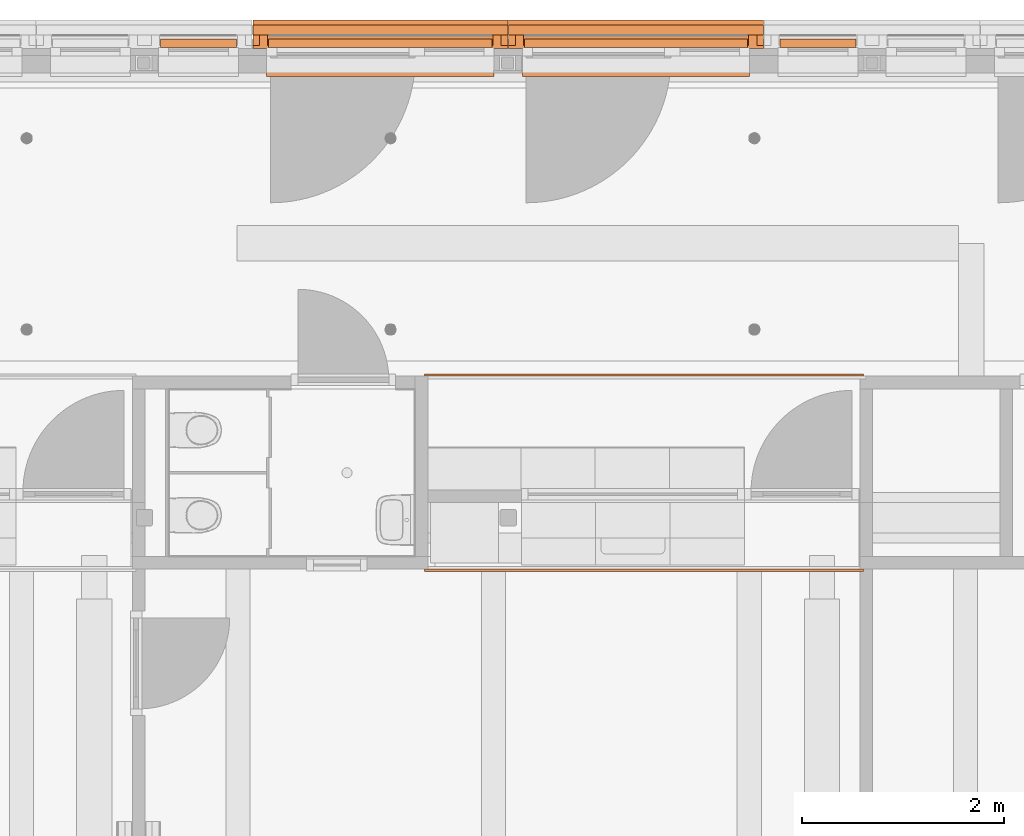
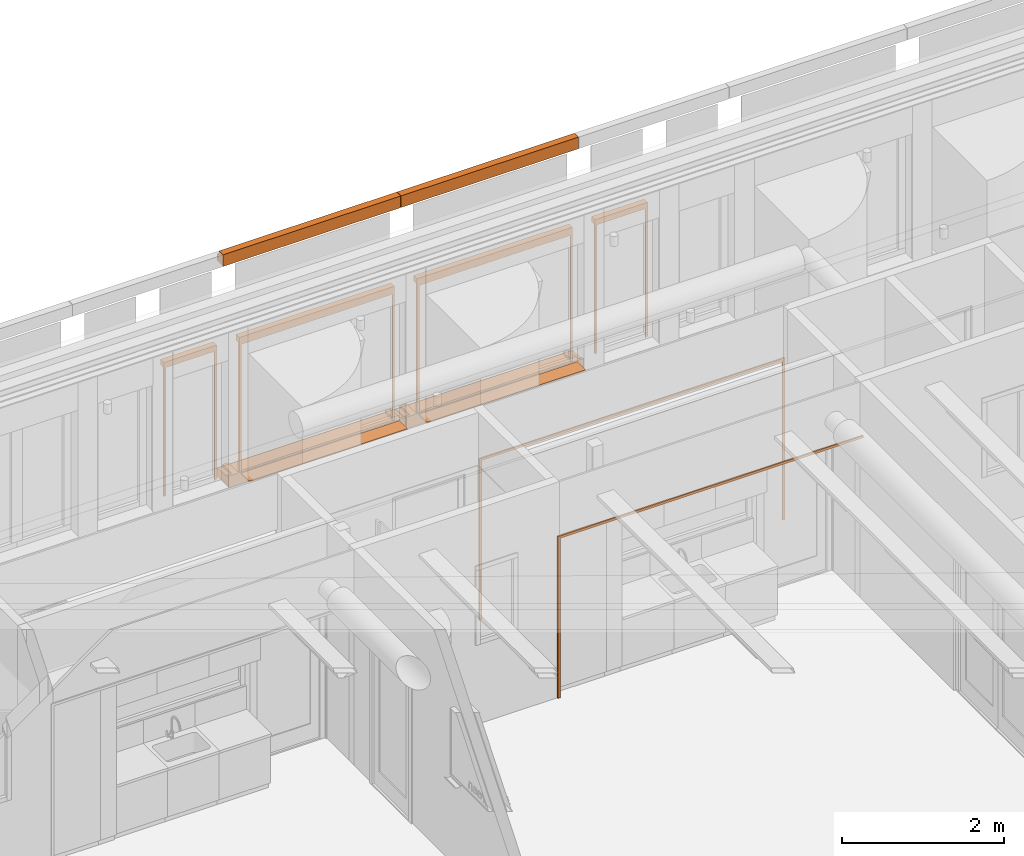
# One storey, part 112 of 128: 12 proxies.
"""IFC2X3 building model written with IfcOpenShell, lengths in millimetres."""

import ifcopenshell
import ifcopenshell.guid

model = None  # the IFC model being written
_history = None  # IfcOwnerHistory: only IFC2X3 demands one
_inside = {}  # id of a spatial element -> (the spatial element, [elements in it])
_under = {}  # id of a project, library or spatial element -> (it, [spatial elements below it])
_declared = {}  # id of a project -> (the project, [libraries it declares])
_typed = {}  # id of a type object -> (the type object, [elements of that type])
_made_of = {}  # id of a material, layer set ... -> (it, [elements and type objects made of it])


def new_model(schema):
    """Start an empty IFC model of exactly this schema.

    Asked for "IFC4X3", IfcOpenShell would pick the latest addendum, in which some entities
    have other attributes; the version numbers below select the first issue.
    IFC2X3 requires an IfcOwnerHistory on every rooted entity: one is made here for all.
    """
    global model, _history
    if schema == "IFC4X3":
        model = ifcopenshell.file(schema_version=(4, 3, 0, 0))
    else:
        model = ifcopenshell.file(schema=schema)
    _inside.clear()
    _under.clear()
    _declared.clear()
    _typed.clear()
    _made_of.clear()
    _history = None
    if model.schema == "IFC2X3":
        org = make("IfcOrganization", Name="unknown")
        user = make(
            "IfcPersonAndOrganization",
            ThePerson=make("IfcPerson", FamilyName="unknown"),
            TheOrganization=org,
        )
        app = make(
            "IfcApplication",
            ApplicationDeveloper=org,
            Version="unknown",
            ApplicationFullName="unknown",
            ApplicationIdentifier="unknown",
        )
        _history = make(
            "IfcOwnerHistory",
            OwningUser=user,
            OwningApplication=app,
            ChangeAction="ADDED",
            CreationDate=0,
        )
    return model


def make(cls, **values):
    """One entity of the class cls with the attributes given. An attribute that is None is left unset."""
    return model.create_entity(
        cls, **{name: value for name, value in values.items() if value is not None}
    )


def entity(cls, *values):
    """Any entity or typed value of the class cls, its attributes in the order of the schema. None: left unset."""
    e = model.create_entity(cls)
    for i, value in enumerate(values):
        if value is not None:
            e[i] = value
    return e


def rooted(cls, **values):
    """An entity with a GlobalId (a new one), such as an element, a storey or a relation."""
    return make(cls, GlobalId=ifcopenshell.guid.new(), OwnerHistory=_history, **values)


def si_unit(unit_type, name, prefix=None):
    """IfcSIUnit, for example si_unit("LENGTHUNIT", "METRE", prefix="MILLI")."""
    return make("IfcSIUnit", UnitType=unit_type, Prefix=prefix, Name=name)


def converted_unit(unit_type, name, factor, base, dimensions=None, offset=None):
    """IfcConversionBasedUnit, such as the inch: factor (a typed value) times the base unit."""
    return make(
        "IfcConversionBasedUnit"
        if offset is None
        else "IfcConversionBasedUnitWithOffset",
        ConversionOffset=offset,
        Dimensions=None
        if dimensions is None
        else entity("IfcDimensionalExponents", *dimensions),
        UnitType=unit_type,
        Name=name,
        ConversionFactor=make(
            "IfcMeasureWithUnit", ValueComponent=factor, UnitComponent=base
        ),
    )


def derived_unit(unit_type, elements):
    """IfcDerivedUnit: a product of units, each with its exponent."""
    return make(
        "IfcDerivedUnit",
        Elements=[
            make("IfcDerivedUnitElement", Unit=unit, Exponent=power)
            for unit, power in elements
        ],
        UnitType=unit_type,
    )


def assignment(units):
    """IfcUnitAssignment: the units of a project."""
    return None if units is None else make("IfcUnitAssignment", Units=units)


def point(xyz):
    """IfcCartesianPoint."""
    return None if xyz is None else make("IfcCartesianPoint", Coordinates=xyz)


def direction(xyz):
    """IfcDirection."""
    return None if xyz is None else make("IfcDirection", DirectionRatios=xyz)


def frame(location, z_axis=None, x_axis=None):
    """IfcAxis2Placement3D, a coordinate frame: its origin and axes. An axis left out is left unset."""
    return make(
        "IfcAxis2Placement3D",
        Location=point(location),
        Axis=direction(z_axis),
        RefDirection=direction(x_axis),
    )


def frame_2d(location, x_axis=None):
    """IfcAxis2Placement2D, a coordinate frame in the plane: its origin and x axis."""
    return make(
        "IfcAxis2Placement2D", Location=point(location), RefDirection=direction(x_axis)
    )


def origin():
    """The frame at (0, 0, 0) with its axes left unset."""
    return frame((0.0, 0.0, 0.0))


def origin_2d_with_axis():
    """The frame at (0, 0) in the plane with the x axis (1, 0) written out."""
    return frame_2d((0.0, 0.0), x_axis=(1.0, 0.0))


def place(relative_to, where):
    """IfcLocalPlacement: puts the frame where relative to a parent placement (None: the world)."""
    return make(
        "IfcLocalPlacement", PlacementRelTo=relative_to, RelativePlacement=where
    )


def context(
    kind, dimensions, precision=None, world=None, true_north=None, identifier=None
):
    """IfcGeometricRepresentationContext, for example the 3D "Model" context."""
    return make(
        "IfcGeometricRepresentationContext",
        ContextIdentifier=identifier,
        ContextType=kind,
        CoordinateSpaceDimension=dimensions,
        Precision=precision,
        WorldCoordinateSystem=world,
        TrueNorth=true_north,
    )


def subcontext(parent, identifier, kind, view, scale=None):
    """IfcGeometricRepresentationSubContext, for example "Body" below "Model"."""
    return make(
        "IfcGeometricRepresentationSubContext",
        ContextIdentifier=identifier,
        ContextType=kind,
        ParentContext=parent,
        TargetScale=scale,
        TargetView=view,
    )


def project(units=None, contexts=None):
    """IfcProject with its units and contexts."""
    return rooted(
        "IfcProject",
        Name="project",
        RepresentationContexts=contexts,
        UnitsInContext=assignment(units),
    )


def spatial(cls, under=None, at=None, **own):
    """A site, building, storey or space (cls), placed at a placement, below another one or the project."""
    s = rooted(cls, ObjectPlacement=at, **own)
    if under is not None:
        _under.setdefault(under.id(), (under, []))[1].append(s)
    return s


def polyline(points):
    """IfcPolyline through the points."""
    return make("IfcPolyline", Points=[point(p) for p in points])


def circle_curve(where, radius):
    """IfcCircle in the frame where."""
    return make("IfcCircle", Position=where, Radius=radius)


def parameter(value):
    """IfcParameterValue: where a trimmed curve begins or ends, as a parameter of its basis curve."""
    return model.create_entity("IfcParameterValue", value)


def trimmed(basis, trim1, trim2, sense, master):
    """IfcTrimmedCurve: the piece of a basis curve between two trims."""
    return make(
        "IfcTrimmedCurve",
        BasisCurve=basis,
        Trim1=trim1,
        Trim2=trim2,
        SenseAgreement=sense,
        MasterRepresentation=master,
    )


def segment(curve, same_sense, transition):
    """IfcCompositeCurveSegment."""
    return make(
        "IfcCompositeCurveSegment",
        Transition=transition,
        SameSense=same_sense,
        ParentCurve=curve,
    )


def composite_curve(segments, self_intersect=None):
    """IfcCompositeCurve: segments joined end to end."""
    return make("IfcCompositeCurve", Segments=segments, SelfIntersect=self_intersect)


def profile(cls, at=None, kind="AREA", **sizes):
    """A parametric profile (cls). Its sizes go by their IFC names, for example OverallWidth=200.0."""
    return make(cls, ProfileType=kind, Position=at, **sizes)


def rectangle(**sizes):
    """IfcRectangleProfileDef."""
    return profile("IfcRectangleProfileDef", **sizes)


def outline(outer, holes=None, kind="AREA"):
    """IfcArbitraryClosedProfileDef: a profile drawn as a closed curve; with holes, ...WithVoids."""
    if holes is None:
        return make("IfcArbitraryClosedProfileDef", ProfileType=kind, OuterCurve=outer)
    return make(
        "IfcArbitraryProfileDefWithVoids",
        ProfileType=kind,
        OuterCurve=outer,
        InnerCurves=holes,
    )


def extrude(swept, where, along, depth):
    """IfcExtrudedAreaSolid: the profile swept, set in the frame where, extruded along a direction by depth."""
    return make(
        "IfcExtrudedAreaSolid",
        SweptArea=swept,
        Position=where,
        ExtrudedDirection=direction(along),
        Depth=depth,
    )


def shape(context_of_items, identifier, shape_type, items):
    """IfcShapeRepresentation: the items that make up one representation, for example the "Body"."""
    return make(
        "IfcShapeRepresentation",
        ContextOfItems=context_of_items,
        RepresentationIdentifier=identifier,
        RepresentationType=shape_type,
        Items=items,
    )


def source(mapping_origin, context_of_items, identifier, shape_type, items):
    """IfcRepresentationMap: a shape defined once, which mapped items show again and again."""
    return make(
        "IfcRepresentationMap",
        MappingOrigin=mapping_origin,
        MappedRepresentation=shape(context_of_items, identifier, shape_type, items),
    )


def transform(
    local_origin,
    x_axis=None,
    y_axis=None,
    z_axis=None,
    scale=None,
    scale2=None,
    scale3=None,
    uniform=True,
):
    """IfcCartesianTransformationOperator3D, or its non-uniform kind. x_axis, y_axis, z_axis: its Axis1, 2, 3."""
    if uniform:
        return make(
            "IfcCartesianTransformationOperator3D",
            Axis1=direction(x_axis),
            Axis2=direction(y_axis),
            LocalOrigin=point(local_origin),
            Scale=scale,
            Axis3=direction(z_axis),
        )
    return make(
        "IfcCartesianTransformationOperator3DnonUniform",
        Axis1=direction(x_axis),
        Axis2=direction(y_axis),
        LocalOrigin=point(local_origin),
        Scale=scale,
        Axis3=direction(z_axis),
        Scale2=scale2,
        Scale3=scale3,
    )


def mapped(mapping_source, mapping_target):
    """IfcMappedItem: shows the shape of a source again, moved by a transform."""
    return make(
        "IfcMappedItem", MappingSource=mapping_source, MappingTarget=mapping_target
    )


def material(Name=None, Category=None):
    """IfcMaterial."""
    return make("IfcMaterial", Name=Name, Category=Category)


def material_list(materials):
    """IfcMaterialList."""
    return make("IfcMaterialList", Materials=materials)


def made_of(thing, what):
    """Note that an element or type object is made of a material, layer set ...; save() writes the relation."""
    if what is not None:
        _made_of.setdefault(what.id(), (what, []))[1].append(thing)
    return thing


def type_object(cls, material=None, **own):
    """A type object (cls), such as IfcWallType, which elements share."""
    return made_of(rooted(cls, **own), material)


def type_shapes(of_type, sources):
    """Give a type object the sources (RepresentationMaps) that its elements show as mapped items."""
    of_type.RepresentationMaps = sources


def element(
    cls,
    number,
    at=None,
    inside=None,
    cuts=None,
    type_object=None,
    material=None,
    context=None,
    identifier="Body",
    shape_type=None,
    held_by="IfcProductDefinitionShape",
    body=None,
    shapes=None,
    **own,
):
    """One element of the class cls, such as IfcWall. Its Tag is "e" and its number.

    at: its placement. inside: the storey or other place that contains it. cuts: it is an
    opening in that element (IfcRelVoidsElement). A single representation is given by context,
    identifier, shape_type and body (its items); several are given by shapes. held_by: the class
    of the entity that holds the representations. save() writes the other relations.
    """
    e = rooted(cls, Tag="e%d" % number, ObjectPlacement=at, **own)
    if body is not None:
        shapes = [shape(context, identifier, shape_type, body)]
    if shapes is not None:
        e.Representation = make(held_by, Representations=shapes)
    if inside is not None:
        _inside.setdefault(inside.id(), (inside, []))[1].append(e)
    if cuts is not None:
        rooted(
            "IfcRelVoidsElement", RelatingBuildingElement=cuts, RelatedOpeningElement=e
        )
    if type_object is not None:
        _typed.setdefault(type_object.id(), (type_object, []))[1].append(e)
    return made_of(e, material)


def aggregate(whole, parts):
    """IfcRelAggregates: a whole, such as a stair, and the parts it consists of."""
    return rooted("IfcRelAggregates", RelatingObject=whole, RelatedObjects=parts)


def save(model, path):
    """Write the relations noted so far, then the file.

    IfcRelAggregates (storeys below a building ...), IfcRelContainedInSpatialStructure (elements
    in a storey), IfcRelDefinesByType, IfcRelAssociatesMaterial and IfcRelDeclares: one each for
    every whole, place, type object, material and project.
    """
    for whole, parts in _under.values():
        aggregate(whole, parts)
    for where, things in _inside.values():
        rooted(
            "IfcRelContainedInSpatialStructure",
            RelatedElements=things,
            RelatingStructure=where,
        )
    for kind, things in _typed.values():
        rooted("IfcRelDefinesByType", RelatedObjects=things, RelatingType=kind)
    for what, things in _made_of.values():
        rooted("IfcRelAssociatesMaterial", RelatedObjects=things, RelatingMaterial=what)
    for by, libraries in _declared.values():
        rooted("IfcRelDeclares", RelatingContext=by, RelatedDefinitions=libraries)
    model.write(path)


model = new_model("IFC2X3")

# Units and contexts
model_context = context("Model", 3, precision=0.01, world=origin(), true_north=direction((6.123031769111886e-17, 1.0)))
body_context = subcontext(model_context, "Body", "Model", "MODEL_VIEW")
ifc_project = project(units=[si_unit("LENGTHUNIT", "METRE", prefix="MILLI"), si_unit("AREAUNIT", "SQUARE_METRE"), si_unit("VOLUMEUNIT", "CUBIC_METRE"), converted_unit("PLANEANGLEUNIT", "DEGREE", entity("IfcRatioMeasure", 0.017453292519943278), si_unit("PLANEANGLEUNIT", "RADIAN"), dimensions=[0, 0, 0, 0, 0, 0, 0]), si_unit("MASSUNIT", "GRAM", prefix="KILO"), derived_unit("MASSDENSITYUNIT", [(si_unit("MASSUNIT", "GRAM", prefix="KILO"), 1), (si_unit("LENGTHUNIT", "METRE"), -3)]), derived_unit("IONCONCENTRATIONUNIT", [(si_unit("MASSUNIT", "GRAM", prefix="KILO"), 1), (si_unit("LENGTHUNIT", "METRE"), -3)]), derived_unit("MOMENTOFINERTIAUNIT", [(si_unit("LENGTHUNIT", "METRE"), 4)]), si_unit("TIMEUNIT", "SECOND"), si_unit("FREQUENCYUNIT", "HERTZ"), si_unit("THERMODYNAMICTEMPERATUREUNIT", "DEGREE_CELSIUS"), derived_unit("THERMALTRANSMITTANCEUNIT", [(si_unit("MASSUNIT", "GRAM", prefix="KILO"), 1), (si_unit("THERMODYNAMICTEMPERATUREUNIT", "KELVIN"), -1), (si_unit("TIMEUNIT", "SECOND"), -3)]), derived_unit("THERMALCONDUCTANCEUNIT", [(si_unit("MASSUNIT", "GRAM", prefix="KILO"), 1), (si_unit("THERMODYNAMICTEMPERATUREUNIT", "KELVIN"), -1), (si_unit("TIMEUNIT", "SECOND"), -3), (si_unit("LENGTHUNIT", "METRE"), 1)]), derived_unit("VOLUMETRICFLOWRATEUNIT", [(si_unit("LENGTHUNIT", "METRE"), 3), (si_unit("TIMEUNIT", "SECOND"), -1)]), derived_unit("MASSFLOWRATEUNIT", [(si_unit("MASSUNIT", "GRAM", prefix="KILO"), 1), (si_unit("TIMEUNIT", "SECOND"), -1)]), derived_unit("ROTATIONALFREQUENCYUNIT", [(si_unit("TIMEUNIT", "SECOND"), -1)]), si_unit("ELECTRICCURRENTUNIT", "AMPERE"), si_unit("ELECTRICVOLTAGEUNIT", "VOLT"), si_unit("POWERUNIT", "WATT"), si_unit("FORCEUNIT", "NEWTON", prefix="KILO"), si_unit("ILLUMINANCEUNIT", "LUX"), si_unit("LUMINOUSFLUXUNIT", "LUMEN"), si_unit("LUMINOUSINTENSITYUNIT", "CANDELA"), derived_unit("USERDEFINED", [(si_unit("MASSUNIT", "GRAM", prefix="KILO"), -1), (si_unit("LENGTHUNIT", "METRE"), -2), (si_unit("TIMEUNIT", "SECOND"), 3), (si_unit("LUMINOUSFLUXUNIT", "LUMEN"), 1)]), derived_unit("USERDEFINED", [(si_unit("MASSUNIT", "GRAM", prefix="KILO"), 1), (si_unit("TIMEUNIT", "SECOND"), -3), (si_unit("LENGTHUNIT", "METRE"), 3), (si_unit("ELECTRICCURRENTUNIT", "AMPERE"), -2)]), derived_unit("SOUNDPOWERUNIT", [(si_unit("MASSUNIT", "GRAM", prefix="KILO"), 1), (si_unit("TIMEUNIT", "SECOND"), -3), (si_unit("LENGTHUNIT", "METRE"), 2)]), derived_unit("SOUNDPRESSUREUNIT", [(si_unit("MASSUNIT", "GRAM", prefix="KILO"), 1), (si_unit("LENGTHUNIT", "METRE"), -1), (si_unit("TIMEUNIT", "SECOND"), -2)]), derived_unit("LINEARVELOCITYUNIT", [(si_unit("LENGTHUNIT", "METRE"), 1), (si_unit("TIMEUNIT", "SECOND"), -1)]), si_unit("PRESSUREUNIT", "PASCAL"), derived_unit("USERDEFINED", [(si_unit("MASSUNIT", "GRAM", prefix="KILO"), 1), (si_unit("LENGTHUNIT", "METRE"), -2), (si_unit("TIMEUNIT", "SECOND"), -2)]), derived_unit("LINEARFORCEUNIT", [(si_unit("MASSUNIT", "GRAM", prefix="KILO"), 1), (si_unit("TIMEUNIT", "SECOND"), -2)]), derived_unit("PLANARFORCEUNIT", [(si_unit("MASSUNIT", "GRAM", prefix="KILO"), 1), (si_unit("LENGTHUNIT", "METRE"), -1), (si_unit("TIMEUNIT", "SECOND"), -2)]), derived_unit("SPECIFICHEATCAPACITYUNIT", [(si_unit("THERMODYNAMICTEMPERATUREUNIT", "KELVIN"), -1), (si_unit("LENGTHUNIT", "METRE"), 2), (si_unit("TIMEUNIT", "SECOND"), -2)]), derived_unit("HEATINGVALUEUNIT", [(si_unit("LENGTHUNIT", "METRE"), 2), (si_unit("TIMEUNIT", "SECOND"), -2)]), derived_unit("VAPORPERMEABILITYUNIT", [(si_unit("LENGTHUNIT", "METRE"), -1), (si_unit("TIMEUNIT", "SECOND"), 1)]), derived_unit("DYNAMICVISCOSITYUNIT", [(si_unit("MASSUNIT", "GRAM", prefix="KILO"), 1), (si_unit("TIMEUNIT", "SECOND"), -1), (si_unit("LENGTHUNIT", "METRE"), -1)]), derived_unit("THERMALEXPANSIONCOEFFICIENTUNIT", [(si_unit("THERMODYNAMICTEMPERATUREUNIT", "KELVIN"), -1)]), derived_unit("MODULUSOFELASTICITYUNIT", [(si_unit("MASSUNIT", "GRAM", prefix="KILO"), 1), (si_unit("LENGTHUNIT", "METRE"), -1), (si_unit("TIMEUNIT", "SECOND"), -2)]), derived_unit("ISOTHERMALMOISTURECAPACITYUNIT", [(si_unit("LENGTHUNIT", "METRE"), 3), (si_unit("MASSUNIT", "GRAM", prefix="KILO"), -1)]), derived_unit("MOISTUREDIFFUSIVITYUNIT", [(si_unit("TIMEUNIT", "SECOND"), -1), (si_unit("LENGTHUNIT", "METRE"), 2)])], contexts=[model_context])

# Site, building, storey
site_placement = place(None, frame((0.0, 300.0, 0.0)))
site = spatial("IfcSite", under=ifc_project, at=site_placement, Name="<Kadastrale nummers>", CompositionType="ELEMENT")
building_placement = place(site_placement, origin())
building = spatial("IfcBuilding", under=site, at=building_placement, CompositionType="ELEMENT")
storey_placement = place(building_placement, frame((0.0, 0.0, 3560.0000331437)))
storey = spatial("IfcBuildingStorey", under=building, at=storey_placement, Name="01 eerste verdieping", CompositionType="ELEMENT", Elevation=3560.0000331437)

# Proxies
ifc_material_1 = material(Name="ISR_Beton_prefab")
building_element_proxy_type_1 = type_object("IfcBuildingElementProxyType", Name="29_DAT_Prefab betonnen waterslag lang:22", PredefinedType="NOTDEFINED", material=ifc_material_1)
shared_shape_1 = source(origin(), body_context, "Body", "SweptSolid", [
    extrude(outline(polyline([(-16.052237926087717, -115.0), (26.113434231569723, -115.0), (5.9910416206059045, 115.0), (-16.052237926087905, 115.0), (-16.052237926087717, -115.0)])), frame((2377.0, 75.0, -16.05223792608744), z_axis=(1.0, 0.0, 0.0), x_axis=(0.0, 0.0, -1.0)), (0.0, 0.0, 1.0), 79.99999999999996),
    extrude(outline(polyline([(-16.052237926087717, -115.0), (26.113434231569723, -115.0), (5.9910416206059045, 115.0), (-16.052237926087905, 115.0), (-16.052237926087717, -115.0)])), frame((67.0, 75.0, -16.05223792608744), z_axis=(1.0, 0.0, 0.0), x_axis=(0.0, 0.0, -1.0)), (0.0, 0.0, 1.0), 80.00000000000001),
    extrude(outline(composite_curve([segment(polyline([(-140.0, -95.7340207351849), (-110.0, -95.7340207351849)]), True, "CONTINUOUS"), segment(polyline([(-110.0, -95.7340207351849), (-110.0, -73.7340207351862)]), True, "CONTINUOUS"), segment(polyline([(-110.0, -73.7340207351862), (140.0, -51.861854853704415)]), True, "CONTINUOUS"), segment(polyline([(140.0, -51.86185485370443), (140.0, 79.26597926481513)]), True, "CONTINUOUS"), segment(polyline([(140.0, 79.26597926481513), (115.0, 79.26597926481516)]), True, "CONTINUOUS"), segment(trimmed(circle_curve(frame_2d((110.0, 79.26597926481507), x_axis=(1.0, 0.0)), 5.000000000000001), [parameter(179.99999999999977)], [parameter(4.0711099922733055e-13)], True, "PARAMETER"), False, "CONTINUOUS"), segment(polyline([(105.0, 79.26597926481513), (-140.0, 79.26597926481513)]), True, "CONTINUOUS"), segment(polyline([(-140.0, 79.26597926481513), (-140.0, -95.7340207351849)]), True, "CONTINUOUS")], self_intersect=False)), frame((0.0, 80.0, -95.73402073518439), z_axis=(1.0, 0.0, 0.0), x_axis=(0.0, -1.0, 0.0)), (0.0, 0.0, 1.0), 2524.0000000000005),
])
type_shapes(building_element_proxy_type_1, [shared_shape_1])
for number, where, z_axis, x_axis, name in (
    (1, (16327.0, 50165.0, 890.0000018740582), (0.0, 0.0, 1.0), (-1.0, 0.0, 0.0), "29_DAT_Prefab betonnen waterslag lang:22"),
    (2, (13797.0, 50165.0, 890.0000018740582), (0.0, 0.0, 1.0), (-1.0, 0.0, 0.0), "29_DAT_Prefab betonnen waterslag lang:22"),
):
    element("IfcBuildingElementProxy", number, at=place(storey_placement, frame(where, z_axis=z_axis, x_axis=x_axis)), inside=storey, type_object=building_element_proxy_type_1, material=ifc_material_1, Name=name, ObjectType="29_DAT_Prefab betonnen waterslag lang:22", context=body_context, shape_type="MappedRepresentation", body=[
        mapped(shared_shape_1, transform((0.0, 0.0, 0.0), scale=1.0)),
    ])
ifc_material_2 = material(Name="STAAL_RAL 7006")
ifc_material_3 = material(Name="<Unnamed>")
ifc_material_list = material_list([ifc_material_2, ifc_material_3])
building_element_proxy_type_2 = type_object("IfcBuildingElementProxyType", Name="31_DAT_Screen_zonwering_bak85:31_DAT_Screen_zonwering_bak85", PredefinedType="NOTDEFINED", material=ifc_material_list)
shared_shape_2 = source(origin(), body_context, "Body", "SweptSolid", [
    extrude(outline(polyline([(-60.69864841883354, -53.573897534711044), (20.695945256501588, -53.573897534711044), (20.695945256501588, 1.1216926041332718), (22.501351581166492, 1.1216926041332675), (22.501351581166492, 24.626102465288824), (17.501351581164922, 24.626102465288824), (17.501351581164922, 27.826102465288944), (-60.69864841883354, 27.826102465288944), (-60.69864841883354, -53.573897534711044)])), frame((2208.0, -29.62610246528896, 2752.501351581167), z_axis=(1.0, 0.0, 0.0), x_axis=(0.0, 0.0, -1.0)), (0.0, 0.0, 1.0), 1.999999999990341),
    extrude(outline(polyline([(-55.83243227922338, -51.08259835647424), (29.167567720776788, -51.08259835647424), (29.167567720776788, 5.412991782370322), (27.362161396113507, 5.412991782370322), (27.362161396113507, -49.28259835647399), (-54.032432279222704, -49.28259835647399), (-54.032432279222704, 32.117401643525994), (24.16756772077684, 32.117401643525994), (24.16756772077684, 28.91740164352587), (29.167567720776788, 28.91740164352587), (29.167567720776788, 33.917401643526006), (-55.83243227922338, 33.917401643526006), (-55.83243227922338, -51.08259835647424)])), frame((0.0, -33.917401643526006, 2759.1675677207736), z_axis=(1.0, 0.0, 0.0), x_axis=(0.0, 0.0, -1.0)), (0.0, 0.0, 1.0), 2210.000000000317),
    extrude(outline(polyline([(-60.69864841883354, -53.573897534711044), (20.695945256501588, -53.573897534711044), (20.695945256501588, 1.1216926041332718), (22.501351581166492, 1.1216926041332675), (22.501351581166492, 24.626102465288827), (17.501351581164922, 24.626102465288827), (17.501351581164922, 27.826102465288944), (-60.69864841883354, 27.826102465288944), (-60.69864841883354, -53.573897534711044)])), frame((0.0, -29.62610246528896, 2752.501351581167), z_axis=(1.0, 0.0, 0.0), x_axis=(0.0, 0.0, -1.0)), (0.0, 0.0, 1.0), 1.999999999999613),
    extrude(rectangle(XDim=2170.0000000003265, YDim=1.163311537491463, at=frame_2d((1.1368683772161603e-13, -2.1094237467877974e-15), x_axis=(1.0, 0.0))), frame((1105.0, -20.037293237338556, 2723.857769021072)), (0.0, 0.0, 1.0), 6.142230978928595),
    extrude(outline(composite_curve([segment(polyline([(-7.502327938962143, -23.023758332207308), (7.497672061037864, -23.023758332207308)]), True, "CONTINUOUS"), segment(trimmed(circle_curve(frame_2d((7.497672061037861, -21.523758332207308), x_axis=(0.0, -1.0)), 1.4999999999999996), [parameter(359.99999999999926)], [parameter(90.00000000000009)], True, "PARAMETER"), True, "CONTINUOUS"), segment(polyline([(8.997672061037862, -21.523758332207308), (8.997672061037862, 8.976241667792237)]), True, "CONTINUOUS"), segment(trimmed(circle_curve(frame_2d((5.99767206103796, 8.976241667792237), x_axis=(0.0, -1.0)), 3.0), [parameter(90.00000000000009)], [parameter(172.84454900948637)], True, "PARAMETER"), True, "CONTINUOUS"), segment(polyline([(6.371357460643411, 11.952877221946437), (2.232090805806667, 12.470504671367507)]), True, "CONTINUOUS"), segment(trimmed(circle_curve(frame_2d((2.1399803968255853, 11.733933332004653), x_axis=(0.0, -1.0)), 0.7423083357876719), [parameter(172.87199730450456)], [parameter(323.5235343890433)], True, "PARAMETER"), True, "CONTINUOUS"), segment(trimmed(circle_curve(frame_2d((-0.0023279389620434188, 8.976241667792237), x_axis=(0.0, -1.0)), 2.75), [parameter(217.47327986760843)], [parameter(141.78969998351)], True, "PARAMETER"), False, "CONTINUOUS"), segment(trimmed(circle_curve(frame_2d((-2.144636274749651, 11.733933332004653), x_axis=(0.0, -1.0)), 0.7423083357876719), [parameter(39.207114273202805)], [parameter(187.12800269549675)], True, "PARAMETER"), True, "CONTINUOUS"), segment(polyline([(-2.2367466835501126, 12.470504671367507), (-6.376013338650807, 11.952877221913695)]), True, "CONTINUOUS"), segment(trimmed(circle_curve(frame_2d((-6.002327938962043, 8.976241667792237), x_axis=(0.0, -1.0)), 3.0), [parameter(187.1554509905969)], [parameter(269.9999999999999)], True, "PARAMETER"), True, "CONTINUOUS"), segment(polyline([(-9.002327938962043, 8.976241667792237), (-9.002327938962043, -21.523758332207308)]), True, "CONTINUOUS"), segment(trimmed(circle_curve(frame_2d((-7.502327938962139, -21.523758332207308), x_axis=(0.0, -1.0)), 1.5000000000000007), [parameter(269.9999999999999)], [parameter(359.9999999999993)], True, "PARAMETER"), True, "CONTINUOUS")], self_intersect=False)), frame((20.0, -19.997672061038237, 2716.8815273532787), z_axis=(1.0, 0.0, 0.0), x_axis=(0.0, 1.0, 0.0)), (0.0, 0.0, 1.0), 2170.0000000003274),
    extrude(outline(polyline([(-14.638298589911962, -16.231574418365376), (-13.138298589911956, -16.231574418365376), (-13.138298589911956, 12.23272922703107), (-6.116685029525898, 12.23272922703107), (-6.116685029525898, -6.231574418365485), (-1.1166850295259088, -6.231574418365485), (-1.1166850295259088, -4.769580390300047), (-4.579546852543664, -4.769580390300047), (-4.579546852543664, 12.23272922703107), (13.866111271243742, 12.23272922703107), (13.866111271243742, -4.769580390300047), (10.361701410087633, -4.769580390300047), (10.361701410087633, -6.2315744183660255), (15.36170141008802, -6.2315744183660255), (15.36170141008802, 13.768425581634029), (-14.638298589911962, 13.768425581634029), (-14.638298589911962, -16.231574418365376)])), frame((2196.231574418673, -14.638298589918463, 800.0), z_axis=(0.0, 0.0, 1.0), x_axis=(0.0, -1.0, 0.0)), (0.0, 0.0, 1.0), 1930.000000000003),
    extrude(outline(polyline([(-16.231574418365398, -14.638298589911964), (13.768425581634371, -14.638298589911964), (13.76842558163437, 15.361701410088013), (-6.231574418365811, 15.361701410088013), (-6.231574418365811, 10.361701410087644), (-4.769580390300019, 10.361701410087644), (-4.769580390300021, 13.866111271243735), (12.2327292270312, 13.866111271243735), (12.2327292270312, -4.57954685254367), (-4.769580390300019, -4.57954685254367), (-4.769580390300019, -1.1166850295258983), (-6.231574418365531, -1.1166850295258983), (-6.231574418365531, -6.116685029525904), (12.232729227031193, -6.116685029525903), (12.232729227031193, -13.138298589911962), (-16.231574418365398, -13.138298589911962), (-16.231574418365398, -14.638298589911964)])), frame((13.768425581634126, -14.638298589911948, 800.0), z_axis=(0.0, 0.0, 1.0), x_axis=(-1.0, 0.0, 0.0)), (0.0, 0.0, 1.0), 1930.0000000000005),
])
type_shapes(building_element_proxy_type_2, [shared_shape_2])
for number, where, z_axis, x_axis, name in (
    (3, (16170.0, 49951.0, 100.00000187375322), (0.0, 0.0, 1.0), (-1.0, 0.0, 0.0), "31_DAT_Screen_zonwering_bak85:31_DAT_Screen_zonwering_bak85"),
    (4, (13640.0, 49951.0, 100.00000187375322), (0.0, 0.0, 1.0), (-1.0, 0.0, 0.0), "31_DAT_Screen_zonwering_bak85:31_DAT_Screen_zonwering_bak85"),
):
    element("IfcBuildingElementProxy", number, at=place(storey_placement, frame(where, z_axis=z_axis, x_axis=x_axis)), inside=storey, type_object=building_element_proxy_type_2, material=ifc_material_list, Name=name, ObjectType="31_DAT_Screen_zonwering_bak85:31_DAT_Screen_zonwering_bak85", context=body_context, shape_type="MappedRepresentation", body=[
        mapped(shared_shape_2, transform((0.0, 0.0, 0.0), scale=1.0)),
    ])
building_element_proxy_type_3 = type_object("IfcBuildingElementProxyType", Name="29_DAT_Prefab betonband afgeschuind:29_DAT_Prefab betonband afgeschuind", PredefinedType="NOTDEFINED", material=ifc_material_1)
shared_shape_3 = source(origin(), body_context, "Body", "SweptSolid", [
    extrude(outline(polyline([(-94.16666666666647, -83.33333333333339), (80.83333333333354, -83.33333333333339), (80.83333333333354, 16.66666666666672), (18.33333333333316, 16.666666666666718), (8.333333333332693, 66.66666666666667), (-94.16666666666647, 66.66666666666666), (-94.16666666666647, -83.33333333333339)])), frame((0.0, 16.66666666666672, -18.33333333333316), z_axis=(1.0, 0.0, 0.0), x_axis=(0.0, 0.0, 1.0)), (0.0, 0.0, 1.0), 2524.0000000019),
])
type_shapes(building_element_proxy_type_3, [shared_shape_3])
for number, where, z_axis, x_axis, name in (
    (5, (16327.0, 50175.0, 4077.4999668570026), (0.0, 0.0, 1.0), (-1.0, 0.0, 0.0), "29_DAT_Prefab betonband afgeschuind:29_DAT_Prefab betonband afgeschuind"),
    (6, (13797.0, 50175.0, 4077.4999668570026), (0.0, 0.0, 1.0), (-1.0, 0.0, 0.0), "29_DAT_Prefab betonband afgeschuind:29_DAT_Prefab betonband afgeschuind"),
):
    element("IfcBuildingElementProxy", number, at=place(storey_placement, frame(where, z_axis=z_axis, x_axis=x_axis)), inside=storey, type_object=building_element_proxy_type_3, material=ifc_material_1, Name=name, ObjectType="29_DAT_Prefab betonband afgeschuind:29_DAT_Prefab betonband afgeschuind", context=body_context, shape_type="MappedRepresentation", body=[
        mapped(shared_shape_3, transform((0.0, 0.0, 0.0), scale=1.0)),
    ])
building_element_proxy_type_4 = type_object("IfcBuildingElementProxyType", Name="31_DAT_Screen_zonwering_bak85:31_DAT_Screen_zonwering_bak85", PredefinedType="NOTDEFINED", material=ifc_material_list)
shared_shape_4 = source(origin(), body_context, "Body", "SweptSolid", [
    extrude(outline(polyline([(-60.69864841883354, -53.573897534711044), (20.695945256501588, -53.573897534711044), (20.695945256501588, 1.1216926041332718), (22.501351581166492, 1.1216926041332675), (22.501351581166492, 24.626102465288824), (17.501351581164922, 24.626102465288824), (17.501351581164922, 27.826102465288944), (-60.69864841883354, 27.826102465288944), (-60.69864841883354, -53.573897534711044)])), frame((748.0, -29.62610246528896, 2752.501351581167), z_axis=(1.0, 0.0, 0.0), x_axis=(0.0, 0.0, -1.0)), (0.0, 0.0, 1.0), 1.9999999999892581),
    extrude(outline(polyline([(-55.83243227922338, -51.08259835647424), (29.167567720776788, -51.08259835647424), (29.167567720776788, 5.412991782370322), (27.362161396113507, 5.412991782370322), (27.362161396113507, -49.28259835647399), (-54.032432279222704, -49.28259835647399), (-54.032432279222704, 32.117401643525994), (24.16756772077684, 32.117401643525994), (24.16756772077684, 28.91740164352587), (29.167567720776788, 28.91740164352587), (29.167567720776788, 33.917401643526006), (-55.83243227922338, 33.917401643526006), (-55.83243227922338, -51.08259835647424)])), frame((0.0, -33.917401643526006, 2759.1675677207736), z_axis=(1.0, 0.0, 0.0), x_axis=(0.0, 0.0, -1.0)), (0.0, 0.0, 1.0), 749.9999999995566),
    extrude(outline(polyline([(-60.69864841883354, -53.573897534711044), (20.695945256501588, -53.573897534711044), (20.695945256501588, 1.1216926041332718), (22.501351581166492, 1.1216926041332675), (22.501351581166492, 24.626102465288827), (17.501351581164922, 24.626102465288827), (17.501351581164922, 27.826102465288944), (-60.69864841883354, 27.826102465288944), (-60.69864841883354, -53.573897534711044)])), frame((0.0, -29.62610246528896, 2752.501351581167), z_axis=(1.0, 0.0, 0.0), x_axis=(0.0, 0.0, -1.0)), (0.0, 0.0, 1.0), 1.999999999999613),
    extrude(rectangle(XDim=709.9999999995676, YDim=1.163311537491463, at=frame_2d((0.0, -2.1094237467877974e-15), x_axis=(1.0, 0.0))), frame((375.0, -20.037293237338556, 2730.0)), (0.0, 0.0, 1.0), 61.996041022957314),
    extrude(outline(composite_curve([segment(polyline([(-7.502327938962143, -23.023758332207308), (7.497672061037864, -23.023758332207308)]), True, "CONTINUOUS"), segment(trimmed(circle_curve(frame_2d((7.497672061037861, -21.523758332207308), x_axis=(0.0, -1.0)), 1.4999999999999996), [parameter(359.99999999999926)], [parameter(90.00000000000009)], True, "PARAMETER"), True, "CONTINUOUS"), segment(polyline([(8.997672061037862, -21.523758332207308), (8.997672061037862, 8.976241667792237)]), True, "CONTINUOUS"), segment(trimmed(circle_curve(frame_2d((5.99767206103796, 8.976241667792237), x_axis=(0.0, -1.0)), 3.0), [parameter(90.00000000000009)], [parameter(172.84454900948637)], True, "PARAMETER"), True, "CONTINUOUS"), segment(polyline([(6.371357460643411, 11.952877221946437), (2.232090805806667, 12.470504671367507)]), True, "CONTINUOUS"), segment(trimmed(circle_curve(frame_2d((2.1399803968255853, 11.733933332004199), x_axis=(0.0, -1.0)), 0.7423083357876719), [parameter(172.87199730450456)], [parameter(323.5235343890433)], True, "PARAMETER"), True, "CONTINUOUS"), segment(trimmed(circle_curve(frame_2d((-0.0023279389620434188, 8.976241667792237), x_axis=(0.0, -1.0)), 2.75), [parameter(217.47327986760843)], [parameter(141.78969998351)], True, "PARAMETER"), False, "CONTINUOUS"), segment(trimmed(circle_curve(frame_2d((-2.144636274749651, 11.733933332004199), x_axis=(0.0, -1.0)), 0.7423083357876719), [parameter(39.207114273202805)], [parameter(187.12800269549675)], True, "PARAMETER"), True, "CONTINUOUS"), segment(polyline([(-2.2367466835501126, 12.470504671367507), (-6.376013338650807, 11.95287722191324)]), True, "CONTINUOUS"), segment(trimmed(circle_curve(frame_2d((-6.002327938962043, 8.976241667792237), x_axis=(0.0, -1.0)), 3.0), [parameter(187.1554509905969)], [parameter(269.9999999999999)], True, "PARAMETER"), True, "CONTINUOUS"), segment(polyline([(-9.002327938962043, 8.976241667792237), (-9.002327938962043, -21.523758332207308)]), True, "CONTINUOUS"), segment(trimmed(circle_curve(frame_2d((-7.502327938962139, -21.523758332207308), x_axis=(0.0, -1.0)), 1.5000000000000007), [parameter(269.9999999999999)], [parameter(359.9999999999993)], True, "PARAMETER"), True, "CONTINUOUS")], self_intersect=False)), frame((20.0, -19.997672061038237, 2785.0197993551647), z_axis=(1.0, 0.0, 0.0), x_axis=(0.0, 1.0, 0.0)), (0.0, 0.0, 1.0), 709.9999999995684),
    extrude(outline(polyline([(-14.638298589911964, -16.231574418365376), (-13.138298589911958, -16.231574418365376), (-13.138298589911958, 12.232729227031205), (-6.116685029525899, 12.232729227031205), (-6.116685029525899, -6.231574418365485), (-1.116685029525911, -6.231574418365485), (-1.116685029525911, -4.769580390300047), (-4.579546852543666, -4.769580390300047), (-4.579546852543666, 12.23272922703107), (13.86611127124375, 12.23272922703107), (13.86611127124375, -4.769580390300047), (10.36170141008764, -4.769580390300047), (10.36170141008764, -6.2315744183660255), (15.36170141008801, -6.2315744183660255), (15.36170141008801, 13.768425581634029), (-14.638298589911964, 13.768425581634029), (-14.638298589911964, -16.231574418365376)])), frame((736.2315744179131, -14.638298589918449, 800.0), z_axis=(0.0, 0.0, 1.0), x_axis=(0.0, -1.0, 0.0)), (0.0, 0.0, 1.0), 1930.000000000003),
    extrude(outline(polyline([(-16.231574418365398, -14.638298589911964), (13.768425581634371, -14.638298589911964), (13.76842558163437, 15.361701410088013), (-6.231574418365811, 15.361701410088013), (-6.231574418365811, 10.361701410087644), (-4.769580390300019, 10.361701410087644), (-4.769580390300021, 13.866111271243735), (12.2327292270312, 13.866111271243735), (12.2327292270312, -4.57954685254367), (-4.769580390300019, -4.57954685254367), (-4.769580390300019, -1.1166850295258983), (-6.231574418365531, -1.1166850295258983), (-6.231574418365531, -6.116685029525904), (12.232729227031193, -6.116685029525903), (12.232729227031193, -13.138298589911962), (-16.231574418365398, -13.138298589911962), (-16.231574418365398, -14.638298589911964)])), frame((13.768425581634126, -14.638298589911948, 800.0), z_axis=(0.0, 0.0, 1.0), x_axis=(-1.0, 0.0, 0.0)), (0.0, 0.0, 1.0), 1930.0000000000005),
])
type_shapes(building_element_proxy_type_4, [shared_shape_4])
for number, where, z_axis, x_axis, name in (
    (7, (17240.0, 49951.0, 100.00000187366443), (0.0, 0.0, 1.0), (-1.0, 0.0, 0.0), "31_DAT_Screen_zonwering_bak85:31_DAT_Screen_zonwering_bak85"),
    (8, (11110.0, 49951.0, 100.00000187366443), (0.0, 0.0, 1.0), (-1.0, 0.0, 0.0), "31_DAT_Screen_zonwering_bak85:31_DAT_Screen_zonwering_bak85"),
):
    element("IfcBuildingElementProxy", number, at=place(storey_placement, frame(where, z_axis=z_axis, x_axis=x_axis)), inside=storey, type_object=building_element_proxy_type_4, material=ifc_material_list, Name=name, ObjectType="31_DAT_Screen_zonwering_bak85:31_DAT_Screen_zonwering_bak85", context=body_context, shape_type="MappedRepresentation", body=[
        mapped(shared_shape_4, transform((0.0, 0.0, 0.0), scale=1.0)),
    ])

# Space
space_1_placement = place(storey_placement, origin())
space_1 = spatial("IfcSpace", under=storey, at=space_1_placement, Name="1.11", CompositionType="ELEMENT", InteriorOrExteriorSpace="INTERNAL")

# Proxies
ifc_material_4 = material(Name="e1_natuursteen")
building_element_proxy_type_5 = type_object("IfcBuildingElementProxyType", Name="NLRS_31_GM_WPB_vensterbank natuursteen -SH_gen_ASN:200x18", PredefinedType="USERDEFINED", material=ifc_material_4)
shared_shape_5 = source(origin(), body_context, "Body", "SweptSolid", [
    extrude(rectangle(XDim=200.0, YDim=2250.000000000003, at=origin_2d_with_axis()), frame((0.0, -100.0, 0.0), z_axis=(0.0, 0.0, 1.0), x_axis=(0.0, -1.0, 0.0)), (0.0, 0.0, 1.0), 17.999999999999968),
])
type_shapes(building_element_proxy_type_5, [shared_shape_5])
for number, where, z_axis, x_axis, name in (
    (9, (15065.0, 49668.0, 920.0000018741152), (0.0, 0.0, 1.0), (-1.0, 0.0, 0.0), "NLRS_31_GM_WPB_vensterbank natuursteen -SH_gen_ASN:200x18"),
    (10, (12535.0, 49668.0, 920.0000018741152), (0.0, 0.0, 1.0), (-1.0, 0.0, 0.0), "NLRS_31_GM_WPB_vensterbank natuursteen -SH_gen_ASN:200x18"),
):
    element("IfcBuildingElementProxy", number, at=place(space_1_placement, frame(where, z_axis=z_axis, x_axis=x_axis)), inside=space_1, type_object=building_element_proxy_type_5, material=ifc_material_4, Name=name, ObjectType="NLRS_31_GM_WPB_vensterbank natuursteen -SH_gen_ASN:200x18", context=body_context, shape_type="MappedRepresentation", body=[
        mapped(shared_shape_5, transform((0.0, 0.0, 0.0), scale=1.0)),
    ])
ifc_material_5 = material(Name="ISR_HPL Kleur hout")
building_element_proxy_type_6 = type_object("IfcBuildingElementProxyType", Name="82_DAT_Trimlat om element:82_DAT_Trimlat om element", PredefinedType="NOTDEFINED", material=ifc_material_5)
shared_shape_6 = source(origin(), body_context, "Body", "SweptSolid", [
    extrude(rectangle(XDim=19.999999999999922, YDim=34.99999999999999, at=origin_2d_with_axis()), frame((-17.500000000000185, -10.0, 0.0), z_axis=(0.0, 0.0, 1.0), x_axis=(0.0, 1.0, 0.0)), (0.0, 0.0, 1.0), 2400.000000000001),
    extrude(rectangle(XDim=20.000000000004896, YDim=34.99999999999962, at=frame_2d((0.0, -5.400124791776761e-13), x_axis=(1.0, 0.0))), frame((4292.49999999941, -10.0, 0.0), z_axis=(0.0, 0.0, 1.0), x_axis=(0.0, 1.0, 0.0)), (0.0, 0.0, 1.0), 2400.000000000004),
    extrude(rectangle(XDim=19.99999999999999, YDim=4344.999999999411, at=frame_2d((0.0, -2.2737367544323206e-13), x_axis=(1.0, 0.0))), frame((2137.499999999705, -10.0, 2400.0), z_axis=(0.0, 0.0, 1.0), x_axis=(0.0, 1.0, 0.0)), (0.0, 0.0, 1.0), 34.99999999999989),
])
type_shapes(building_element_proxy_type_6, [shared_shape_6])
proxy_1_placement = place(space_1_placement, frame((17280.0, 46700.0, 90.00000187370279), z_axis=(0.0, 0.0, 1.0), x_axis=(-1.0, 0.0, 0.0)))
element("IfcBuildingElementProxy", 11, at=proxy_1_placement, inside=space_1, type_object=building_element_proxy_type_6, material=ifc_material_5, Name="82_DAT_Trimlat om element:82_DAT_Trimlat om element", ObjectType="82_DAT_Trimlat om element:82_DAT_Trimlat om element", context=body_context, shape_type="MappedRepresentation", body=[
    mapped(shared_shape_6, transform((0.0, 0.0, 0.0), scale=1.0)),
])

# Space
space_2_placement = place(storey_placement, origin())
space_2 = spatial("IfcSpace", under=storey, at=space_2_placement, Name="1.02", CompositionType="ELEMENT", InteriorOrExteriorSpace="INTERNAL")

# Proxy
building_element_proxy_type_7 = type_object("IfcBuildingElementProxyType", Name="82_DAT_Trimlat om element:82_DAT_Trimlat om element", PredefinedType="NOTDEFINED", material=ifc_material_5)
shared_shape_7 = source(origin(), body_context, "Body", "SweptSolid", [
    extrude(rectangle(XDim=19.999999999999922, YDim=34.99999999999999, at=origin_2d_with_axis()), frame((-17.500000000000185, -10.0, 0.0), z_axis=(0.0, 0.0, 1.0), x_axis=(0.0, 1.0, 0.0)), (0.0, 0.0, 1.0), 2400.000000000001),
    extrude(rectangle(XDim=19.99999999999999, YDim=4344.999999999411, at=frame_2d((0.0, -2.2737367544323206e-13), x_axis=(1.0, 0.0))), frame((2137.499999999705, -10.0, 2400.0), z_axis=(0.0, 0.0, 1.0), x_axis=(0.0, 1.0, 0.0)), (0.0, 0.0, 1.0), 34.99999999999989),
])
type_shapes(building_element_proxy_type_7, [shared_shape_7])
proxy_2_placement = place(space_2_placement, frame((13005.0, 44790.0, 90.00000187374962)))
element("IfcBuildingElementProxy", 12, at=proxy_2_placement, inside=space_2, type_object=building_element_proxy_type_7, material=ifc_material_5, Name="82_DAT_Trimlat om element:82_DAT_Trimlat om element", ObjectType="82_DAT_Trimlat om element:82_DAT_Trimlat om element", context=body_context, shape_type="MappedRepresentation", body=[
    mapped(shared_shape_7, transform((0.0, 0.0, 0.0), scale=1.0)),
])

save(model, "model.ifc")
